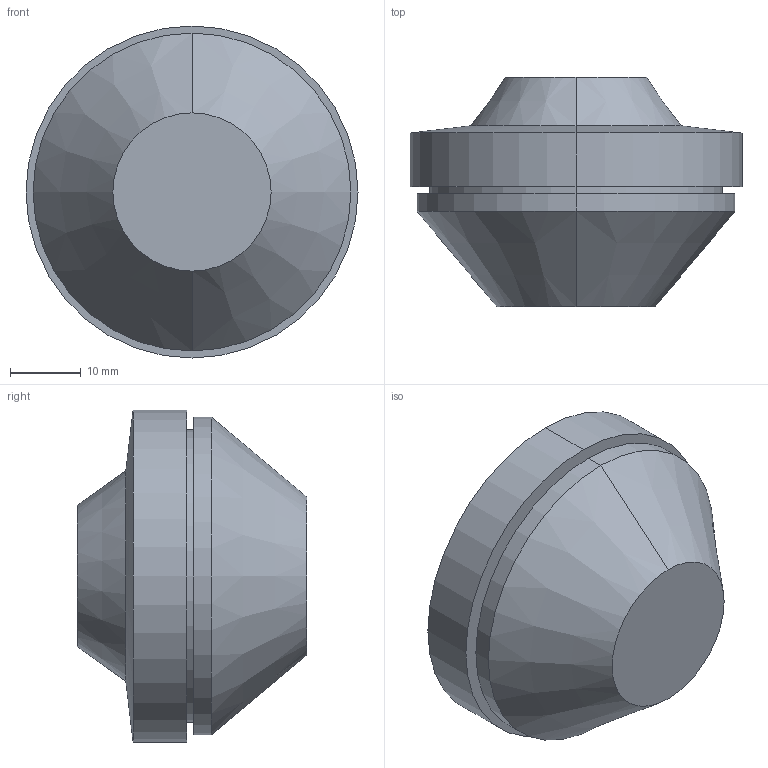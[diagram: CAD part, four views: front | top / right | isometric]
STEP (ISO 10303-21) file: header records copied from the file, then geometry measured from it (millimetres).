
FILE_DESCRIPTION (( 'STEP AP203' ), '1' );
FILE_NAME ('100184.STEP', '2012-10-25T07:09:05', ( 'Joni' ), ( 'Hewlett-Packard Company' ), 'SwSTEP 2.0', 'SolidWorks 2012', '' );
FILE_SCHEMA (( 'CONFIG_CONTROL_DESIGN' ));
Length unit declared in the file: millimetre
Products named in the file (1): 100184
Bounding box: 47 x 32.5 x 47 mm (x, y, z)
Volume: 35600.2 mm3; surface area: 6504.5 mm2
Topology: 1 solids, 1 shells, 16 faces, 30 edges, 18 vertices
Faces by surface type: cone 6, cylinder 6, plane 4
Entity records: 481 total; most frequent: DIRECTION 82, CARTESIAN_POINT 65, ORIENTED_EDGE 60, AXIS2_PLACEMENT_3D 35, EDGE_CURVE 30, CIRCLE 18, VERTEX_POINT 18, EDGE_LOOP 18
